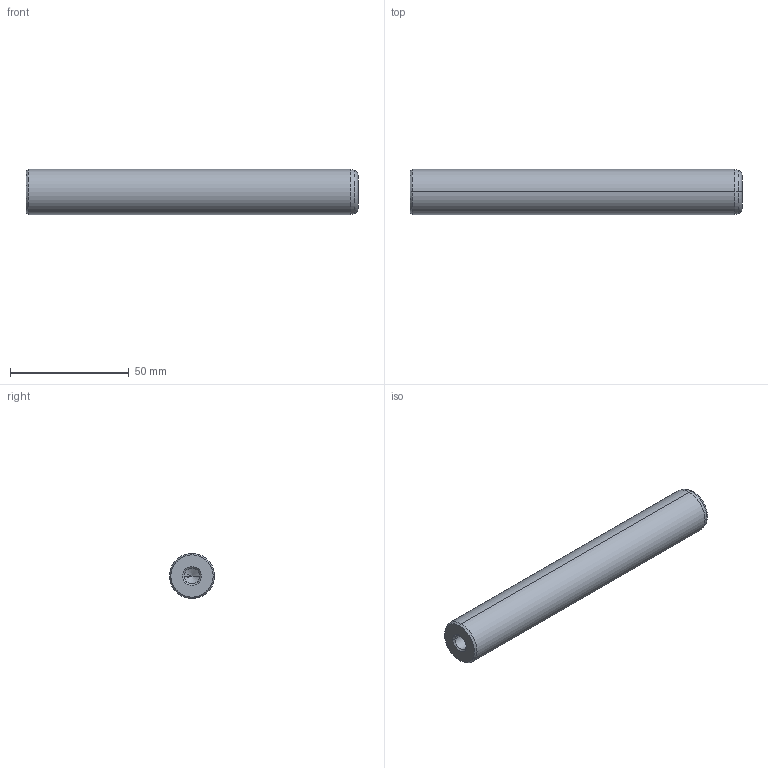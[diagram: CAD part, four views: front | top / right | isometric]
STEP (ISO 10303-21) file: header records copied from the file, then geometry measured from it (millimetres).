
FILE_DESCRIPTION(('CATIA V5 STEP Exchange'),'2;1');
FILE_NAME('C:\Users\Utente\Desktop\IO LAVORO\3D X SITO CF\X SITO\720\720-19x140.stp','2021-01-01T13:07:47+00:00',('none'),('none'),'CATIA Version 5 Release 20 GA (IN-10)','CATIA V5 STEP AP203','none');
FILE_SCHEMA(('CONFIG_CONTROL_DESIGN'));
Length unit declared in the file: millimetre
Products named in the file (1): 720-19x140
Bounding box: 140 x 19 x 19 mm (x, y, z)
Volume: 37863 mm3; surface area: 9821.9 mm2
Topology: 1 solids, 1 shells, 22 faces, 62 edges, 40 vertices
Faces by surface type: cone 12, cylinder 6, plane 2, torus 2
Entity records: 806 total; most frequent: CARTESIAN_POINT 229, ORIENTED_EDGE 116, DIRECTION 93, EDGE_CURVE 58, AXIS2_PLACEMENT_3D 54, VERTEX_POINT 40, CIRCLE 31, EDGE_LOOP 24
